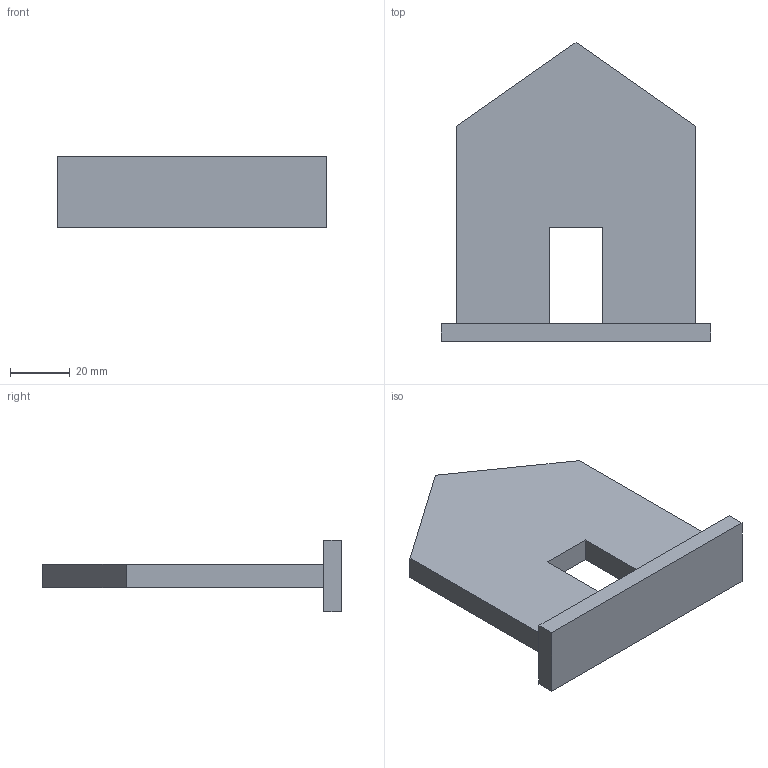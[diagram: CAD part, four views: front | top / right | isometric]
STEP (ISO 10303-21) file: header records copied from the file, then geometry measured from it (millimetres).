
FILE_DESCRIPTION(('Open CASCADE Model'),'2;1');
FILE_NAME('Open CASCADE Shape Model','2026-10-09T16:49:11',('Author'),( 'Open CASCADE'),'Open CASCADE STEP processor 7.8','Open CASCADE 7.8' ,'Unknown');
FILE_SCHEMA(('AUTOMOTIVE_DESIGN { 1 0 10303 214 1 1 1 1 }'));
Length unit declared in the file: millimetre
Products named in the file (1): Open CASCADE STEP translator 7.8 2
Bounding box: 90 x 100 x 24 mm (x, y, z)
Volume: 59552 mm3; surface area: 19333.2 mm2
Topology: 1 solids, 1 shells, 15 faces, 39 edges, 26 vertices
Faces by surface type: plane 15
Entity records: 962 total; most frequent: CARTESIAN_POINT 171, DIRECTION 137, LINE 105, VECTOR 105, ORIENTED_EDGE 78, PCURVE 78, DEFINITIONAL_REPRESENTATION 78, EDGE_CURVE 39
